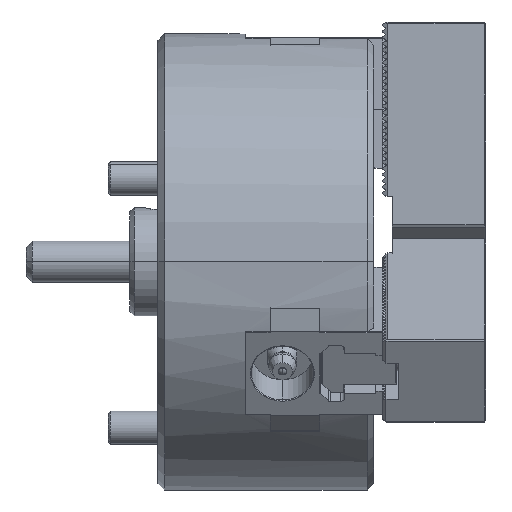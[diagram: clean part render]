
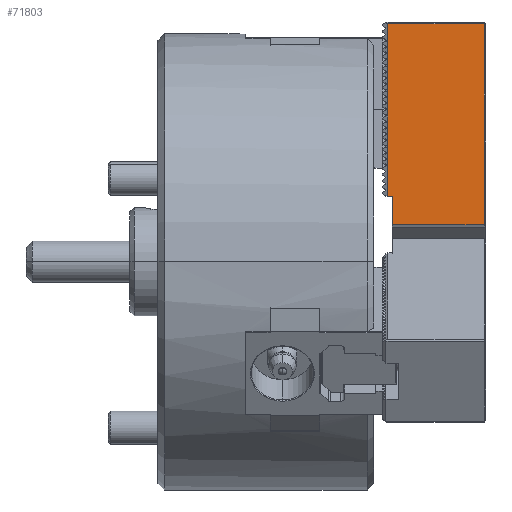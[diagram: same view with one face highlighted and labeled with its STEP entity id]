
A CAD part, top view. The second image highlights one B-rep face of the part: STEP entity #71803.
In plain terms, the highlighted planar face has unit normal (0, 0, 1).
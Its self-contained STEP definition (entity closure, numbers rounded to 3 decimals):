
#729 = VECTOR ( 'NONE', #9274, 1000. ) ;
#1564 = CARTESIAN_POINT ( 'NONE',  ( 2.5, 13., 11.5 ) ) ;
#1892 = FACE_OUTER_BOUND ( 'NONE', #31612, .T. ) ;
#2290 = CARTESIAN_POINT ( 'NONE',  ( 25., 6.174, 11.5 ) ) ;
#6880 = CARTESIAN_POINT ( 'NONE',  ( 1.4, 55., 11.5 ) ) ;
#7667 = DIRECTION ( 'NONE',  ( 0., -1., 0. ) ) ;
#8526 = LINE ( 'NONE', #32268, #65330 ) ;
#9274 = DIRECTION ( 'NONE',  ( 0., 1., 0. ) ) ;
#9668 = CARTESIAN_POINT ( 'NONE',  ( 24.6, 6.174, 11.5 ) ) ;
#11903 = VERTEX_POINT ( 'NONE', #48049 ) ;
#13396 = LINE ( 'NONE', #47391, #30683 ) ;
#14124 = ORIENTED_EDGE ( 'NONE', *, *, #37617, .T. ) ;
#19298 = CARTESIAN_POINT ( 'NONE',  ( 25., 6.174, 11.5 ) ) ;
#19810 = PLANE ( 'NONE',  #49197 ) ;
#22783 = ORIENTED_EDGE ( 'NONE', *, *, #23995, .F. ) ;
#22990 = CARTESIAN_POINT ( 'NONE',  ( 2.5, 6.174, 11.5 ) ) ;
#23057 = VERTEX_POINT ( 'NONE', #54447 ) ;
#23995 = EDGE_CURVE ( 'NONE', #11903, #23057, #55253, .T. ) ;
#25258 = VERTEX_POINT ( 'NONE', #22990 ) ;
#26009 = DIRECTION ( 'NONE',  ( 0., 1., 0. ) ) ;
#26169 = ORIENTED_EDGE ( 'NONE', *, *, #74111, .T. ) ;
#26967 = CARTESIAN_POINT ( 'NONE',  ( 24.6, 6.174, 11.5 ) ) ;
#30683 = VECTOR ( 'NONE', #37143, 1000. ) ;
#31612 = EDGE_LOOP ( 'NONE', ( #59659, #40458, #26169, #14124, #22783, #66179 ) ) ;
#32268 = CARTESIAN_POINT ( 'NONE',  ( 2.5, 0., 11.5 ) ) ;
#37056 = CARTESIAN_POINT ( 'NONE',  ( 1.4, 54.6, 11.5 ) ) ;
#37143 = DIRECTION ( 'NONE',  ( -1., 0., 0. ) ) ;
#37228 = EDGE_CURVE ( 'NONE', #39796, #38197, #38481, .T. ) ;
#37333 = EDGE_CURVE ( 'NONE', #25258, #11903, #8526, .T. ) ;
#37617 = EDGE_CURVE ( 'NONE', #69218, #23057, #59810, .T. ) ;
#38197 = VERTEX_POINT ( 'NONE', #70036 ) ;
#38481 = LINE ( 'NONE', #9668, #729 ) ;
#39796 = VERTEX_POINT ( 'NONE', #26967 ) ;
#40458 = ORIENTED_EDGE ( 'NONE', *, *, #37228, .T. ) ;
#44185 = LINE ( 'NONE', #19298, #68038 ) ;
#46178 = EDGE_CURVE ( 'NONE', #39796, #25258, #44185, .T. ) ;
#47391 = CARTESIAN_POINT ( 'NONE',  ( 25., 54.6, 11.5 ) ) ;
#48049 = CARTESIAN_POINT ( 'NONE',  ( 2.5, 13., 11.5 ) ) ;
#49197 = AXIS2_PLACEMENT_3D ( 'NONE', #2290, #49775, #26009 ) ;
#49775 = DIRECTION ( 'NONE',  ( 0., 0., -1. ) ) ;
#50442 = VECTOR ( 'NONE', #7667, 1000. ) ;
#54447 = CARTESIAN_POINT ( 'NONE',  ( 1.4, 13., 11.5 ) ) ;
#54737 = DIRECTION ( 'NONE',  ( -1., 0., 0. ) ) ;
#55253 = LINE ( 'NONE', #1564, #60942 ) ;
#55999 = DIRECTION ( 'NONE',  ( 0., 1., 0. ) ) ;
#59659 = ORIENTED_EDGE ( 'NONE', *, *, #46178, .F. ) ;
#59810 = LINE ( 'NONE', #6880, #50442 ) ;
#60942 = VECTOR ( 'NONE', #61452, 1000. ) ;
#61452 = DIRECTION ( 'NONE',  ( -1., 0., 0. ) ) ;
#65330 = VECTOR ( 'NONE', #55999, 1000. ) ;
#66179 = ORIENTED_EDGE ( 'NONE', *, *, #37333, .F. ) ;
#68038 = VECTOR ( 'NONE', #54737, 1000. ) ;
#69218 = VERTEX_POINT ( 'NONE', #37056 ) ;
#70036 = CARTESIAN_POINT ( 'NONE',  ( 24.6, 54.6, 11.5 ) ) ;
#71803 = ADVANCED_FACE ( 'NONE', ( #1892 ), #19810, .F. ) ;
#74111 = EDGE_CURVE ( 'NONE', #38197, #69218, #13396, .T. ) ;
